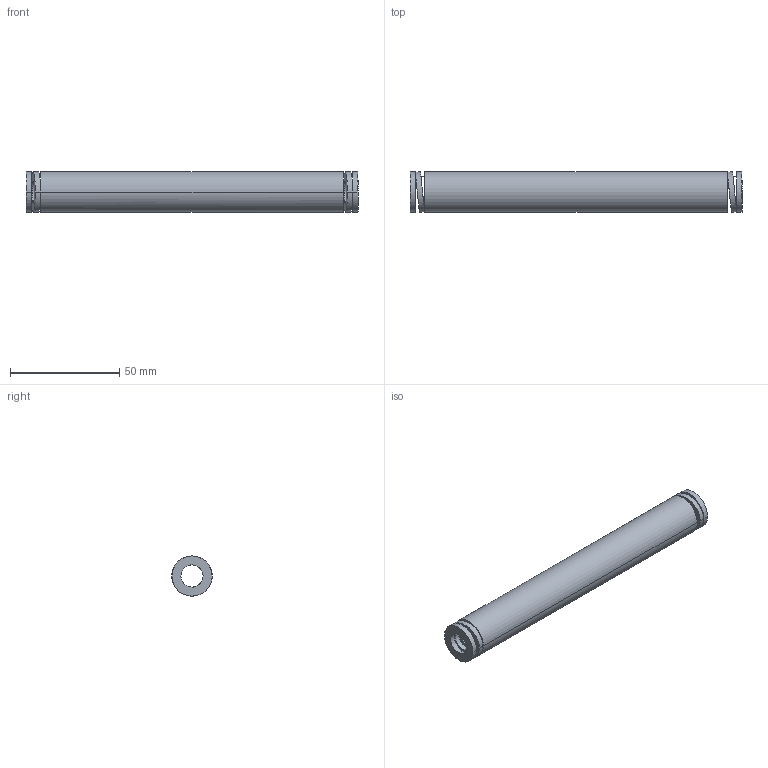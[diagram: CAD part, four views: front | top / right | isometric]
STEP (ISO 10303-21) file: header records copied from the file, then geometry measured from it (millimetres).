
FILE_DESCRIPTION(('CATIA V5 STEP Exchange'),'2;1');
FILE_NAME('C:\Users\Utente\Desktop\IO LAVORO\3D X SITO CF\X SITO\3D files 392B\392-B20-152.stp','2021-08-12T13:33:11+00:00',('none'),('none'),'CATIA Version 5 Release 20 GA (IN-10)','CATIA V5 STEP AP203','none');
FILE_SCHEMA(('CONFIG_CONTROL_DESIGN'));
Length unit declared in the file: millimetre
Products named in the file (1): 392-B20-152
Bounding box: 152 x 18.55 x 18.4 mm (x, y, z)
Volume: 27284.4 mm3; surface area: 15153.6 mm2
Topology: 1 solids, 1 shells, 38 faces, 92 edges, 64 vertices
Faces by surface type: cylinder 28, plane 10
Entity records: 1602 total; most frequent: CARTESIAN_POINT 721, ORIENTED_EDGE 184, DIRECTION 125, EDGE_CURVE 92, VERTEX_POINT 64, AXIS2_PLACEMENT_3D 60, EDGE_LOOP 56, B_SPLINE_CURVE_WITH_KNOTS 43
